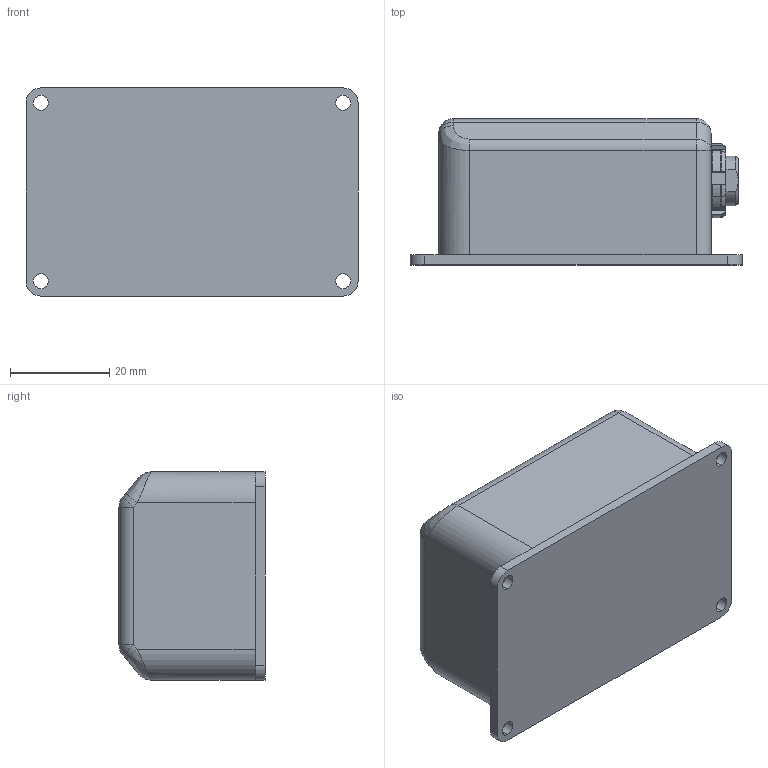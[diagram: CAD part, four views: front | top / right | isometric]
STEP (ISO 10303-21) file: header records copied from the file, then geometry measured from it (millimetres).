
FILE_DESCRIPTION (( 'STEP AP214' ), '1' );
FILE_NAME ('Motus Rugged.STEP', '2015-12-07T01:02:49', ( '' ), ( '' ), 'SwSTEP 2.0', 'SolidWorks 2015', '' );
FILE_SCHEMA (( 'AUTOMOTIVE_DESIGN' ));
Length unit declared in the file: millimetre
Products named in the file (1): Motus Rugged
Bounding box: 67 x 29.5 x 42 mm (x, y, z)
Volume: 67064.7 mm3; surface area: 11745.1 mm2
Topology: 1 solids, 1 shells, 1071 faces, 2769 edges, 1790 vertices
Faces by surface type: plane 558, bspline 208, cylinder 193, cone 57, torus 49, sphere 6
Entity records: 38614 total; most frequent: CARTESIAN_POINT 8765, ORIENTED_EDGE 5514, DIRECTION 4481, EDGE_CURVE 2757, VERTEX_POINT 1790, VECTOR 1749, LINE 1749, AXIS2_PLACEMENT_3D 1366
